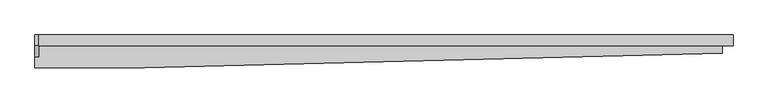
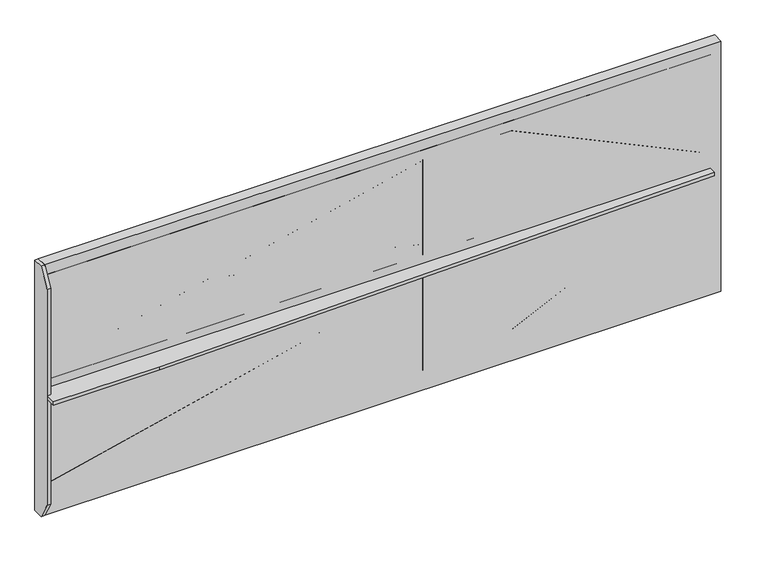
"""IFC4 building model written with IfcOpenShell, lengths in millimetres: proxy geometry, MK-TA24-ZAFE-T02-WD."""

from ifc_helpers import new_model, si_unit, frame, origin, origin_with_axes, place, context, project, spatial, polyline, outline, extrude, source, transform, mapped, element, save


def generic_models_c3a2662e(model_context):
    return source(origin(), model_context, "Body", "SweptSolid", [
        extrude(outline(polyline([(1915.0, 717.0), (1915.0, 687.0), (10.0, 687.0), (10.0, 717.0), (1915.0, 717.0)])), frame((0.0, 0.0, -373.0), z_axis=(0.0, 0.0, 1.0), x_axis=(1.0, 0.0, 0.0)), (0.0, 0.0, 1.0), 746.0),
        extrude(outline(polyline([(10.0, 687.0), (10.0, 717.0), (1855.0, 717.0), (1855.0, 687.0), (10.0, 687.0)])), origin_with_axes(), (0.0, 0.0, 1.0), 30.0),
        extrude(outline(polyline([(1325.0, 687.0), (1295.0, 687.0), (1295.0, 717.0), (1325.0, 717.0), (1325.0, 687.0)])), frame((0.0, 0.0, 30.0), z_axis=(0.0, 0.0, 1.0), x_axis=(1.0, 0.0, 0.0)), (0.0, 0.0, 1.0), 283.0),
        extrude(outline(polyline([(1075.0, 717.0), (1105.0, 717.0), (1105.0, 687.0), (1075.0, 687.0), (1075.0, 717.0)])), frame((0.0, 0.0, -313.0), z_axis=(0.0, 0.0, 1.0), x_axis=(1.0, 0.0, 0.0)), (0.0, 0.0, 1.0), 283.0),
        extrude(outline(polyline([(63.1659971, 1855.0), (313.0, 1325.0), (279.8340029, 1325.0), (30.0, 1855.0), (63.1659971, 1855.0)])), frame((0.0, 687.0, 0.0), z_axis=(0.0, 1.0, 0.0), x_axis=(0.0, 0.0, 1.0)), (0.0, 0.0, 1.0), 30.0),
        extrude(outline(polyline([(-61.9902006, 10.0), (-171.5, 476.8217097), (-156.092798, 542.5), (-31.1757965, 10.0), (-61.9902006, 10.0)])), frame((0.0, 687.0, 0.0), z_axis=(0.0, 1.0, 0.0), x_axis=(0.0, 0.0, 1.0)), (0.0, 0.0, 1.0), 30.0),
        extrude(outline(polyline([(657.0, -321.0384758), (657.0, 321.0384758), (687.0, 373.0), (717.0, 373.0), (717.0, -373.0), (687.0, -373.0), (657.0, -321.0384758)])), frame((0.0, 0.0, 0.0), z_axis=(1.0, 0.0, 0.0), x_axis=(0.0, 1.0, 0.0)), (0.0, 0.0, 1.0), 10.0),
        extrude(outline(polyline([(1885.0, 667.019717), (300.0, 627.0), (0.0, 627.0), (0.0, 687.0), (1885.0, 687.0), (1885.0, 667.019717)])), frame((0.0, 0.0, -5.0), z_axis=(0.0, 0.0, 1.0), x_axis=(1.0, 0.0, 0.0)), (0.0, 0.0, 1.0), 10.0),
        extrude(outline(polyline([(-30.0, 1855.0), (-279.8340029, 1325.0), (-313.0, 1325.0), (-63.1659971, 1855.0), (-30.0, 1855.0)])), frame((0.0, 687.0, 0.0), z_axis=(0.0, 1.0, 0.0), x_axis=(0.0, 0.0, 1.0)), (0.0, 0.0, 1.0), 30.0),
        extrude(outline(polyline([(1105.0, 687.0), (1075.0, 687.0), (1075.0, 717.0), (1105.0, 717.0), (1105.0, 687.0)])), frame((0.0, 0.0, 30.0), z_axis=(0.0, 0.0, 1.0), x_axis=(1.0, 0.0, 0.0)), (0.0, 0.0, 1.0), 283.0),
        extrude(outline(polyline([(61.9902006, 1075.0), (311.8242035, 10.0), (281.0097994, 10.0), (31.1757965, 1075.0), (61.9902006, 1075.0)])), frame((0.0, 687.0, 0.0), z_axis=(0.0, 1.0, 0.0), x_axis=(0.0, 0.0, 1.0)), (0.0, 0.0, 1.0), 30.0),
        extrude(outline(polyline([(1885.0, 717.0), (1885.0, 687.0), (10.0, 687.0), (10.0, 717.0), (1885.0, 717.0)])), frame((0.0, 0.0, -343.0), z_axis=(0.0, 0.0, 1.0), x_axis=(1.0, 0.0, 0.0)), (0.0, 0.0, 1.0), 686.0),
        extrude(outline(polyline([(10.0, 717.0), (1855.0, 717.0), (1855.0, 687.0), (10.0, 687.0), (10.0, 717.0)])), frame((0.0, 0.0, -30.0), z_axis=(0.0, 0.0, 1.0), x_axis=(1.0, 0.0, 0.0)), (0.0, 0.0, 1.0), 30.0),
        extrude(outline(polyline([(171.5, 476.8217097), (61.9902006, 10.0), (31.1757965, 10.0), (156.092798, 542.5), (171.5, 476.8217097)])), frame((0.0, 687.0, 0.0), z_axis=(0.0, 1.0, 0.0), x_axis=(0.0, 0.0, 1.0)), (0.0, 0.0, 1.0), 30.0),
        extrude(outline(polyline([(-281.0097994, 1075.0), (-171.5, 608.1782903), (-186.907202, 542.5), (-311.8242035, 1075.0), (-281.0097994, 1075.0)])), frame((0.0, 687.0, 0.0), z_axis=(0.0, 1.0, 0.0), x_axis=(0.0, 0.0, 1.0)), (0.0, 0.0, 1.0), 30.0),
        extrude(outline(polyline([(171.5, 608.1782903), (281.0097994, 1075.0), (311.8242035, 1075.0), (186.907202, 542.5), (171.5, 608.1782903)])), frame((0.0, 687.0, 0.0), z_axis=(0.0, 1.0, 0.0), x_axis=(0.0, 0.0, 1.0)), (0.0, 0.0, 1.0), 30.0),
        extrude(outline(polyline([(-31.1757965, 1075.0), (-281.0097994, 10.0), (-311.8242035, 10.0), (-61.9902006, 1075.0), (-31.1757965, 1075.0)])), frame((0.0, 687.0, 0.0), z_axis=(0.0, 1.0, 0.0), x_axis=(0.0, 0.0, 1.0)), (0.0, 0.0, 1.0), 30.0),
        extrude(outline(polyline([(1295.0, 717.0), (1325.0, 717.0), (1325.0, 687.0), (1295.0, 687.0), (1295.0, 717.0)])), frame((0.0, 0.0, -313.0), z_axis=(0.0, 0.0, 1.0), x_axis=(1.0, 0.0, 0.0)), (0.0, 0.0, 1.0), 283.0),
    ])


if __name__ == "__main__":
    model = new_model("IFC4")
    model_context = context("Model", 3, world=origin())
    ifc_project = project(units=[si_unit("LENGTHUNIT", "METRE", prefix="MILLI")], contexts=[model_context])
    site = spatial("IfcSite", under=ifc_project)
    building = spatial("IfcBuilding", under=site)
    placement = place(None, origin())
    generic_models_shape = generic_models_c3a2662e(model_context)
    element("IfcBuildingElementProxy", 1, Name="MK-TA24-ZAFE-T02-WD", ObjectType="MK-TA24-ZAFE-T02-WD", at=placement, inside=building, context=model_context, shape_type="MappedRepresentation", body=[
        mapped(generic_models_shape, transform((0.0, 0.0, 0.0), x_axis=(1.0, 0.0, 0.0), y_axis=(0.0, 1.0, 0.0), z_axis=(0.0, 0.0, 1.0))),
    ])
    save(model, "model.ifc")
